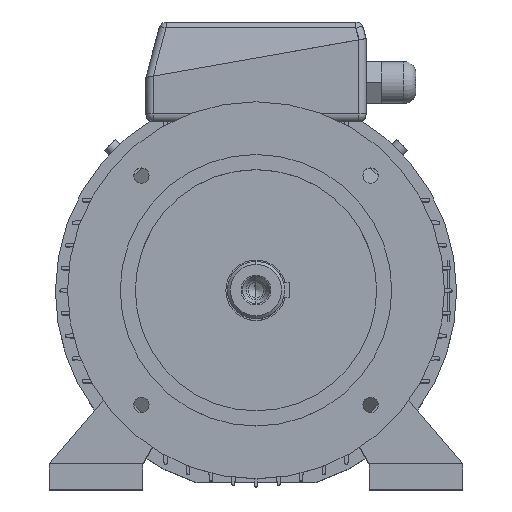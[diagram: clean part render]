
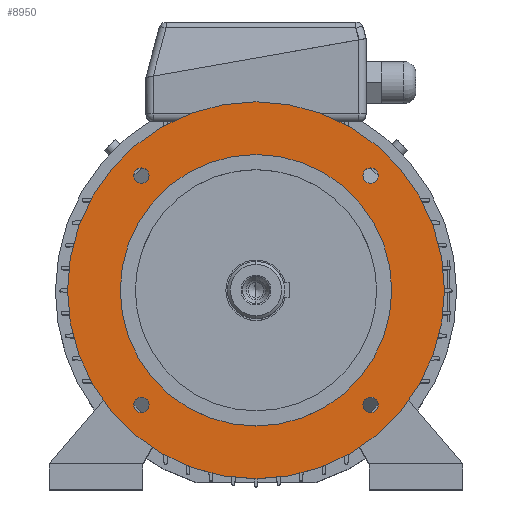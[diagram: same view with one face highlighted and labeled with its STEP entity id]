
A CAD part, top view. The second image highlights one B-rep face of the part: STEP entity #8950.
In plain terms, the highlighted planar face has unit normal (0, 0, 1).
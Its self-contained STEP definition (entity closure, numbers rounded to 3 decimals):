
#248 = CIRCLE ( 'NONE', #249, 5.1 ) ;
#249 = AXIS2_PLACEMENT_3D ( 'NONE', #250, #251, #252 ) ;
#250 = CARTESIAN_POINT ( 'NONE',  ( 76.014, 76.014, 58. ) ) ;
#251 = DIRECTION ( 'NONE',  ( 0., 0., 1. ) ) ;
#252 = DIRECTION ( 'NONE',  ( 1., 0., 0. ) ) ;
#275 = ORIENTED_EDGE ( 'NONE', *, *, #6382, .F. ) ;
#752 = ORIENTED_EDGE ( 'NONE', *, *, #12782, .F. ) ;
#851 = VERTEX_POINT ( 'NONE', #9962 ) ;
#1012 = EDGE_CURVE ( 'NONE', #3212, #851, #10030, .T. ) ;
#1554 = VERTEX_POINT ( 'NONE', #10248 ) ;
#1786 = CIRCLE ( 'NONE', #1787, 5.1 ) ;
#1787 = AXIS2_PLACEMENT_3D ( 'NONE', #1788, #1789, #1790 ) ;
#1788 = CARTESIAN_POINT ( 'NONE',  ( 76.014, -76.014, 58. ) ) ;
#1789 = DIRECTION ( 'NONE',  ( 0., 0., 1. ) ) ;
#1790 = DIRECTION ( 'NONE',  ( 1., 0., 0. ) ) ;
#1800 = EDGE_CURVE ( 'NONE', #2795, #1554, #10398, .T. ) ;
#2171 = CARTESIAN_POINT ( 'NONE',  ( 125., 0., 58. ) ) ;
#2242 = VERTEX_POINT ( 'NONE', #10613 ) ;
#2252 = CIRCLE ( 'NONE', #2253, 125. ) ;
#2253 = AXIS2_PLACEMENT_3D ( 'NONE', #2254, #2255, #2256 ) ;
#2254 = CARTESIAN_POINT ( 'NONE',  ( 0., 0., 58. ) ) ;
#2255 = DIRECTION ( 'NONE',  ( 0., 0., 1. ) ) ;
#2256 = DIRECTION ( 'NONE',  ( 1., 0., 0. ) ) ;
#2625 = CARTESIAN_POINT ( 'NONE',  ( 70.914, -76.014, 58. ) ) ;
#2755 = EDGE_LOOP ( 'NONE', ( #275, #7432 ) ) ;
#2795 = VERTEX_POINT ( 'NONE', #10882 ) ;
#3035 = CARTESIAN_POINT ( 'NONE',  ( 70.914, 76.014, 58. ) ) ;
#3053 = EDGE_LOOP ( 'NONE', ( #9301, #12907 ) ) ;
#3158 = CARTESIAN_POINT ( 'NONE',  ( 81.114, -76.014, 58. ) ) ;
#3212 = VERTEX_POINT ( 'NONE', #11150 ) ;
#3238 = EDGE_CURVE ( 'NONE', #8837, #8586, #11180, .T. ) ;
#3398 = FACE_BOUND ( 'NONE', #2755, .T. ) ;
#3399 = FACE_BOUND ( 'NONE', #3053, .T. ) ;
#3400 = FACE_BOUND ( 'NONE', #12806, .T. ) ;
#3401 = FACE_BOUND ( 'NONE', #7675, .T. ) ;
#3402 = FACE_BOUND ( 'NONE', #5634, .T. ) ;
#3403 = FACE_OUTER_BOUND ( 'NONE', #11337, .T. ) ;
#3404 = PLANE ( 'NONE',  #3405 ) ;
#3405 = AXIS2_PLACEMENT_3D ( 'NONE', #3406, #3413, #3414 ) ;
#3406 = CARTESIAN_POINT ( 'NONE',  ( 0., 125., 58. ) ) ;
#3413 = DIRECTION ( 'NONE',  ( 0., 0., -1. ) ) ;
#3414 = DIRECTION ( 'NONE',  ( -1., 0., 0. ) ) ;
#4130 = EDGE_CURVE ( 'NONE', #8763, #2242, #11600, .T. ) ;
#4741 = CARTESIAN_POINT ( 'NONE',  ( -90., 0., 58. ) ) ;
#4776 = CARTESIAN_POINT ( 'NONE',  ( 90., 0., 58. ) ) ;
#4850 = CIRCLE ( 'NONE', #4851, 90. ) ;
#4851 = AXIS2_PLACEMENT_3D ( 'NONE', #4852, #4853, #4854 ) ;
#4852 = CARTESIAN_POINT ( 'NONE',  ( 0., 0., 58. ) ) ;
#4853 = DIRECTION ( 'NONE',  ( 0., 0., 1. ) ) ;
#4854 = DIRECTION ( 'NONE',  ( 1., 0., 0. ) ) ;
#4874 = CIRCLE ( 'NONE', #4875, 90. ) ;
#4875 = AXIS2_PLACEMENT_3D ( 'NONE', #4876, #4877, #4878 ) ;
#4876 = CARTESIAN_POINT ( 'NONE',  ( 0., 0., 58. ) ) ;
#4877 = DIRECTION ( 'NONE',  ( 0., 0., 1. ) ) ;
#4878 = DIRECTION ( 'NONE',  ( 1., 0., 0. ) ) ;
#5634 = EDGE_LOOP ( 'NONE', ( #10346, #12110 ) ) ;
#5650 = CIRCLE ( 'NONE', #5651, 125. ) ;
#5651 = AXIS2_PLACEMENT_3D ( 'NONE', #5652, #5658, #5659 ) ;
#5652 = CARTESIAN_POINT ( 'NONE',  ( 0., 0., 58. ) ) ;
#5658 = DIRECTION ( 'NONE',  ( 0., 0., 1. ) ) ;
#5659 = DIRECTION ( 'NONE',  ( 1., 0., 0. ) ) ;
#6382 = EDGE_CURVE ( 'NONE', #1554, #2795, #12778, .T. ) ;
#7134 = CIRCLE ( 'NONE', #7135, 5.1 ) ;
#7135 = AXIS2_PLACEMENT_3D ( 'NONE', #7136, #7137, #7138 ) ;
#7136 = CARTESIAN_POINT ( 'NONE',  ( -76.014, -76.014, 58. ) ) ;
#7137 = DIRECTION ( 'NONE',  ( 0., 0., 1. ) ) ;
#7138 = DIRECTION ( 'NONE',  ( 1., 0., 0. ) ) ;
#7432 = ORIENTED_EDGE ( 'NONE', *, *, #1800, .F. ) ;
#7490 = VERTEX_POINT ( 'NONE', #13647 ) ;
#7675 = EDGE_LOOP ( 'NONE', ( #752, #8568 ) ) ;
#7694 = EDGE_CURVE ( 'NONE', #2242, #8763, #248, .T. ) ;
#8211 = EDGE_CURVE ( 'NONE', #8586, #8837, #1786, .T. ) ;
#8374 = VERTEX_POINT ( 'NONE', #2171 ) ;
#8408 = EDGE_CURVE ( 'NONE', #8374, #7490, #2252, .T. ) ;
#8490 = ORIENTED_EDGE ( 'NONE', *, *, #9854, .T. ) ;
#8537 = ORIENTED_EDGE ( 'NONE', *, *, #8408, .T. ) ;
#8568 = ORIENTED_EDGE ( 'NONE', *, *, #1012, .F. ) ;
#8586 = VERTEX_POINT ( 'NONE', #2625 ) ;
#8763 = VERTEX_POINT ( 'NONE', #3035 ) ;
#8837 = VERTEX_POINT ( 'NONE', #3158 ) ;
#8950 = ADVANCED_FACE ( 'NONE', ( #3398, #3399, #3400, #3401, #3402, #3403 ), #3404, .F. ) ;
#9245 = VERTEX_POINT ( 'NONE', #4741 ) ;
#9258 = VERTEX_POINT ( 'NONE', #4776 ) ;
#9298 = EDGE_CURVE ( 'NONE', #9258, #9245, #4850, .T. ) ;
#9301 = ORIENTED_EDGE ( 'NONE', *, *, #7694, .F. ) ;
#9305 = EDGE_CURVE ( 'NONE', #9245, #9258, #4874, .T. ) ;
#9854 = EDGE_CURVE ( 'NONE', #7490, #8374, #5650, .T. ) ;
#9962 = CARTESIAN_POINT ( 'NONE',  ( -70.914, -76.014, 58. ) ) ;
#10030 = CIRCLE ( 'NONE', #10031, 5.1 ) ;
#10031 = AXIS2_PLACEMENT_3D ( 'NONE', #10037, #10038, #10039 ) ;
#10037 = CARTESIAN_POINT ( 'NONE',  ( -76.014, -76.014, 58. ) ) ;
#10038 = DIRECTION ( 'NONE',  ( 0., 0., 1. ) ) ;
#10039 = DIRECTION ( 'NONE',  ( 1., 0., 0. ) ) ;
#10196 = ORIENTED_EDGE ( 'NONE', *, *, #8211, .F. ) ;
#10248 = CARTESIAN_POINT ( 'NONE',  ( -70.914, 76.014, 58. ) ) ;
#10346 = ORIENTED_EDGE ( 'NONE', *, *, #9298, .F. ) ;
#10398 = CIRCLE ( 'NONE', #10399, 5.1 ) ;
#10399 = AXIS2_PLACEMENT_3D ( 'NONE', #10400, #10401, #10402 ) ;
#10400 = CARTESIAN_POINT ( 'NONE',  ( -76.014, 76.014, 58. ) ) ;
#10401 = DIRECTION ( 'NONE',  ( 0., 0., 1. ) ) ;
#10402 = DIRECTION ( 'NONE',  ( 1., 0., 0. ) ) ;
#10613 = CARTESIAN_POINT ( 'NONE',  ( 81.114, 76.014, 58. ) ) ;
#10882 = CARTESIAN_POINT ( 'NONE',  ( -81.114, 76.014, 58. ) ) ;
#11150 = CARTESIAN_POINT ( 'NONE',  ( -81.114, -76.014, 58. ) ) ;
#11180 = CIRCLE ( 'NONE', #11181, 5.1 ) ;
#11181 = AXIS2_PLACEMENT_3D ( 'NONE', #11182, #11183, #11184 ) ;
#11182 = CARTESIAN_POINT ( 'NONE',  ( 76.014, -76.014, 58. ) ) ;
#11183 = DIRECTION ( 'NONE',  ( 0., 0., 1. ) ) ;
#11184 = DIRECTION ( 'NONE',  ( 1., 0., 0. ) ) ;
#11337 = EDGE_LOOP ( 'NONE', ( #8537, #8490 ) ) ;
#11375 = ORIENTED_EDGE ( 'NONE', *, *, #3238, .F. ) ;
#11600 = CIRCLE ( 'NONE', #11601, 5.1 ) ;
#11601 = AXIS2_PLACEMENT_3D ( 'NONE', #11602, #11603, #11604 ) ;
#11602 = CARTESIAN_POINT ( 'NONE',  ( 76.014, 76.014, 58. ) ) ;
#11603 = DIRECTION ( 'NONE',  ( 0., 0., 1. ) ) ;
#11604 = DIRECTION ( 'NONE',  ( 1., 0., 0. ) ) ;
#12110 = ORIENTED_EDGE ( 'NONE', *, *, #9305, .F. ) ;
#12778 = CIRCLE ( 'NONE', #12779, 5.1 ) ;
#12779 = AXIS2_PLACEMENT_3D ( 'NONE', #12780, #12790, #12791 ) ;
#12780 = CARTESIAN_POINT ( 'NONE',  ( -76.014, 76.014, 58. ) ) ;
#12782 = EDGE_CURVE ( 'NONE', #851, #3212, #7134, .T. ) ;
#12790 = DIRECTION ( 'NONE',  ( 0., 0., 1. ) ) ;
#12791 = DIRECTION ( 'NONE',  ( 1., 0., 0. ) ) ;
#12806 = EDGE_LOOP ( 'NONE', ( #11375, #10196 ) ) ;
#12907 = ORIENTED_EDGE ( 'NONE', *, *, #4130, .F. ) ;
#13647 = CARTESIAN_POINT ( 'NONE',  ( -125., 0., 58. ) ) ;
